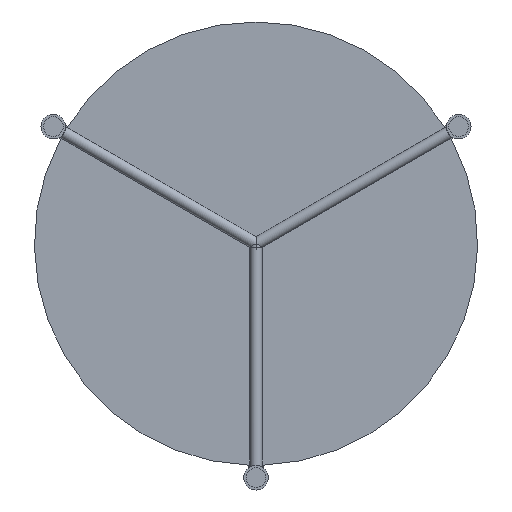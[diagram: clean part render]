
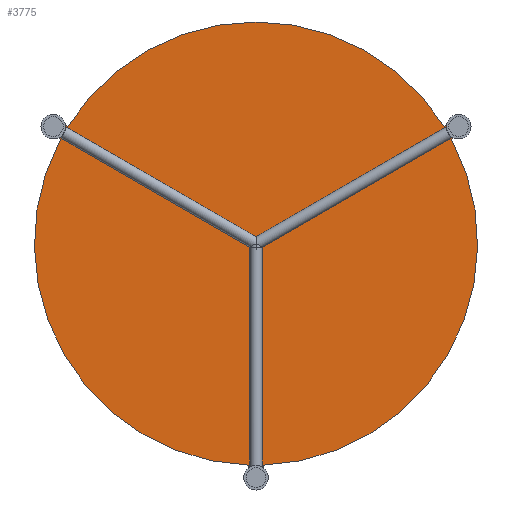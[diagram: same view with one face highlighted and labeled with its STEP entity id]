
A CAD part, front view. The second image highlights one B-rep face of the part: STEP entity #3775.
In plain terms, the highlighted planar face has unit normal (0, -1, 0).
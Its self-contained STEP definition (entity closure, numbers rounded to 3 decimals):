
#66 = EDGE_CURVE ( 'NONE', #2478, #4035, #3513, .T. ) ;
#202 = CARTESIAN_POINT ( 'NONE',  ( -158.798, 399., 84.754 ) ) ;
#207 = EDGE_CURVE ( 'NONE', #2968, #851, #2743, .T. ) ;
#264 = CARTESIAN_POINT ( 'NONE',  ( 0., 399., 0. ) ) ;
#310 = DIRECTION ( 'NONE',  ( 0., 0., 1. ) ) ;
#328 = EDGE_CURVE ( 'NONE', #3719, #1338, #2676, .T. ) ;
#365 = ORIENTED_EDGE ( 'NONE', *, *, #659, .T. ) ;
#401 = ORIENTED_EDGE ( 'NONE', *, *, #3795, .T. ) ;
#462 = ORIENTED_EDGE ( 'NONE', *, *, #1226, .T. ) ;
#482 = AXIS2_PLACEMENT_3D ( 'NONE', #3142, #4158, #1417 ) ;
#549 = VERTEX_POINT ( 'NONE', #1178 ) ;
#551 = LINE ( 'NONE', #3270, #556 ) ;
#556 = VECTOR ( 'NONE', #3802, 1000. ) ;
#570 = VERTEX_POINT ( 'NONE', #4205 ) ;
#574 = DIRECTION ( 'NONE',  ( 0., 0., -1. ) ) ;
#592 = CARTESIAN_POINT ( 'NONE',  ( 0., 399., -190.07 ) ) ;
#609 = DIRECTION ( 'NONE',  ( 0., -1., 0. ) ) ;
#610 = VECTOR ( 'NONE', #2153, 1000. ) ;
#659 = EDGE_CURVE ( 'NONE', #918, #1873, #2209, .T. ) ;
#696 = VECTOR ( 'NONE', #4144, 1000. ) ;
#714 = EDGE_CURVE ( 'NONE', #549, #918, #3573, .T. ) ;
#769 = AXIS2_PLACEMENT_3D ( 'NONE', #1523, #1879, #3915 ) ;
#836 = LINE ( 'NONE', #2897, #610 ) ;
#851 = VERTEX_POINT ( 'NONE', #4077 ) ;
#907 = CARTESIAN_POINT ( 'NONE',  ( 6., 399., -179.9 ) ) ;
#918 = VERTEX_POINT ( 'NONE', #3129 ) ;
#936 = CARTESIAN_POINT ( 'NONE',  ( 167.605, 399., 89.839 ) ) ;
#1023 = AXIS2_PLACEMENT_3D ( 'NONE', #2725, #3652, #2016 ) ;
#1027 = AXIS2_PLACEMENT_3D ( 'NONE', #2313, #609, #1272 ) ;
#1178 = CARTESIAN_POINT ( 'NONE',  ( 152.798, 399., 95.146 ) ) ;
#1226 = EDGE_CURVE ( 'NONE', #1475, #3821, #4001, .T. ) ;
#1232 = ORIENTED_EDGE ( 'NONE', *, *, #2526, .T. ) ;
#1239 = AXIS2_PLACEMENT_3D ( 'NONE', #592, #3271, #574 ) ;
#1272 = DIRECTION ( 'NONE',  ( 0., 0., -1. ) ) ;
#1313 = ORIENTED_EDGE ( 'NONE', *, *, #66, .T. ) ;
#1315 = VECTOR ( 'NONE', #1986, 1000. ) ;
#1338 = VERTEX_POINT ( 'NONE', #3779 ) ;
#1378 = CARTESIAN_POINT ( 'NONE',  ( -158.798, 399., 84.754 ) ) ;
#1396 = AXIS2_PLACEMENT_3D ( 'NONE', #1863, #3214, #1530 ) ;
#1417 = DIRECTION ( 'NONE',  ( 0., 0., -1. ) ) ;
#1475 = VERTEX_POINT ( 'NONE', #3231 ) ;
#1523 = CARTESIAN_POINT ( 'NONE',  ( 0., 399., 0. ) ) ;
#1530 = DIRECTION ( 'NONE',  ( 0., 0., -1. ) ) ;
#1586 = CARTESIAN_POINT ( 'NONE',  ( -161.605, 399., 100.231 ) ) ;
#1612 = VECTOR ( 'NONE', #310, 1000. ) ;
#1635 = FACE_OUTER_BOUND ( 'NONE', #3002, .T. ) ;
#1863 = CARTESIAN_POINT ( 'NONE',  ( -164.605, 399., 95.035 ) ) ;
#1873 = VERTEX_POINT ( 'NONE', #3792 ) ;
#1879 = DIRECTION ( 'NONE',  ( 0., -1., 0. ) ) ;
#1884 = CARTESIAN_POINT ( 'NONE',  ( 6., 399., -182.07 ) ) ;
#1986 = DIRECTION ( 'NONE',  ( 0.866, 0., 0.5 ) ) ;
#2016 = DIRECTION ( 'NONE',  ( 0., 0., -1. ) ) ;
#2111 = VECTOR ( 'NONE', #3620, 1000. ) ;
#2153 = DIRECTION ( 'NONE',  ( -0.866, 0., -0.5 ) ) ;
#2209 = CIRCLE ( 'NONE', #1027, 180. ) ;
#2261 = CARTESIAN_POINT ( 'NONE',  ( -154.677, 399., 96.231 ) ) ;
#2276 = PLANE ( 'NONE',  #3457 ) ;
#2281 = LINE ( 'NONE', #907, #1612 ) ;
#2313 = CARTESIAN_POINT ( 'NONE',  ( 0., 399., 0. ) ) ;
#2376 = VERTEX_POINT ( 'NONE', #1884 ) ;
#2478 = VERTEX_POINT ( 'NONE', #2261 ) ;
#2526 = EDGE_CURVE ( 'NONE', #2376, #2968, #2281, .T. ) ;
#2627 = LINE ( 'NONE', #936, #1315 ) ;
#2629 = CARTESIAN_POINT ( 'NONE',  ( 154.677, 399., 96.231 ) ) ;
#2649 = ORIENTED_EDGE ( 'NONE', *, *, #4206, .T. ) ;
#2650 = DIRECTION ( 'NONE',  ( 0., 0., -1. ) ) ;
#2661 = AXIS2_PLACEMENT_3D ( 'NONE', #3593, #3566, #3266 ) ;
#2665 = ORIENTED_EDGE ( 'NONE', *, *, #207, .T. ) ;
#2671 = EDGE_CURVE ( 'NONE', #1338, #570, #551, .T. ) ;
#2676 = CIRCLE ( 'NONE', #769, 180. ) ;
#2714 = ORIENTED_EDGE ( 'NONE', *, *, #4218, .T. ) ;
#2725 = CARTESIAN_POINT ( 'NONE',  ( 164.605, 399., 95.035 ) ) ;
#2743 = CIRCLE ( 'NONE', #482, 180. ) ;
#2801 = LINE ( 'NONE', #1378, #696 ) ;
#2828 = ORIENTED_EDGE ( 'NONE', *, *, #714, .T. ) ;
#2897 = CARTESIAN_POINT ( 'NONE',  ( 152.798, 399., 95.146 ) ) ;
#2921 = DIRECTION ( 'NONE',  ( 0., -1., 0. ) ) ;
#2968 = VERTEX_POINT ( 'NONE', #3745 ) ;
#2973 = EDGE_CURVE ( 'NONE', #4035, #3719, #2801, .T. ) ;
#3002 = EDGE_LOOP ( 'NONE', ( #401, #1313, #3553, #3746, #3591, #2714, #1232, #2665, #2649, #462, #3310, #2828, #365 ) ) ;
#3129 = CARTESIAN_POINT ( 'NONE',  ( 0., 399., 180. ) ) ;
#3142 = CARTESIAN_POINT ( 'NONE',  ( 0., 399., 0. ) ) ;
#3214 = DIRECTION ( 'NONE',  ( 0., 1., 0. ) ) ;
#3231 = CARTESIAN_POINT ( 'NONE',  ( 160.677, 399., 85.839 ) ) ;
#3266 = DIRECTION ( 'NONE',  ( 0., 0., -1. ) ) ;
#3270 = CARTESIAN_POINT ( 'NONE',  ( -6., 399., -190.07 ) ) ;
#3271 = DIRECTION ( 'NONE',  ( 0., 1., 0. ) ) ;
#3310 = ORIENTED_EDGE ( 'NONE', *, *, #4154, .T. ) ;
#3457 = AXIS2_PLACEMENT_3D ( 'NONE', #264, #2921, #2650 ) ;
#3513 = CIRCLE ( 'NONE', #1396, 10. ) ;
#3553 = ORIENTED_EDGE ( 'NONE', *, *, #2973, .T. ) ;
#3566 = DIRECTION ( 'NONE',  ( 0., -1., 0. ) ) ;
#3573 = CIRCLE ( 'NONE', #2661, 180. ) ;
#3591 = ORIENTED_EDGE ( 'NONE', *, *, #2671, .T. ) ;
#3593 = CARTESIAN_POINT ( 'NONE',  ( 0., 399., 0. ) ) ;
#3620 = DIRECTION ( 'NONE',  ( -0.866, 0., 0.5 ) ) ;
#3652 = DIRECTION ( 'NONE',  ( 0., 1., 0. ) ) ;
#3705 = CARTESIAN_POINT ( 'NONE',  ( -160.677, 399., 85.839 ) ) ;
#3719 = VERTEX_POINT ( 'NONE', #202 ) ;
#3745 = CARTESIAN_POINT ( 'NONE',  ( 6., 399., -179.9 ) ) ;
#3746 = ORIENTED_EDGE ( 'NONE', *, *, #328, .T. ) ;
#3775 = ADVANCED_FACE ( 'NONE', ( #1635 ), #2276, .T. ) ;
#3779 = CARTESIAN_POINT ( 'NONE',  ( -6., 399., -179.9 ) ) ;
#3780 = CIRCLE ( 'NONE', #1239, 10. ) ;
#3792 = CARTESIAN_POINT ( 'NONE',  ( -152.798, 399., 95.146 ) ) ;
#3795 = EDGE_CURVE ( 'NONE', #1873, #2478, #4025, .T. ) ;
#3802 = DIRECTION ( 'NONE',  ( 0., 0., -1. ) ) ;
#3821 = VERTEX_POINT ( 'NONE', #2629 ) ;
#3915 = DIRECTION ( 'NONE',  ( 0., 0., -1. ) ) ;
#4001 = CIRCLE ( 'NONE', #1023, 10. ) ;
#4025 = LINE ( 'NONE', #1586, #2111 ) ;
#4035 = VERTEX_POINT ( 'NONE', #3705 ) ;
#4077 = CARTESIAN_POINT ( 'NONE',  ( 158.798, 399., 84.754 ) ) ;
#4144 = DIRECTION ( 'NONE',  ( 0.866, 0., -0.5 ) ) ;
#4154 = EDGE_CURVE ( 'NONE', #3821, #549, #836, .T. ) ;
#4158 = DIRECTION ( 'NONE',  ( 0., -1., 0. ) ) ;
#4205 = CARTESIAN_POINT ( 'NONE',  ( -6., 399., -182.07 ) ) ;
#4206 = EDGE_CURVE ( 'NONE', #851, #1475, #2627, .T. ) ;
#4218 = EDGE_CURVE ( 'NONE', #570, #2376, #3780, .T. ) ;
